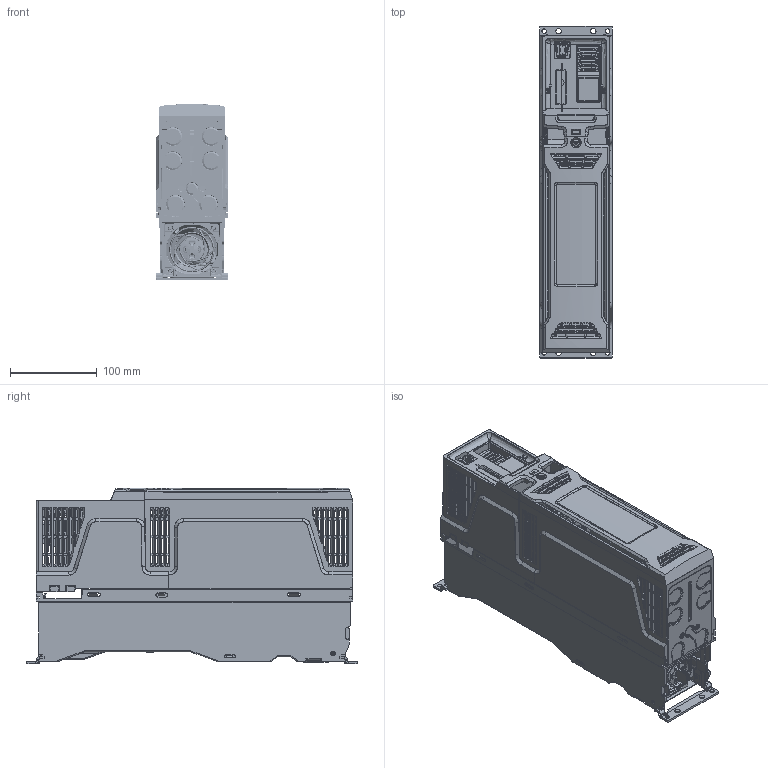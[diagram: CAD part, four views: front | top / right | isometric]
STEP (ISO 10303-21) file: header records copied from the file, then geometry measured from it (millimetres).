
FILE_DESCRIPTION((''),'2;1');
FILE_NAME('UNIM03_WITH_COVERS','2013-09-03T',('lewisi02'),(''),'PRO/ENGINEER BY PARAMETRIC TECHNOLOGY CORPORATION, 2011490','PRO/ENGINEER BY PARAMETRIC TECHNOLOGY CORPORATION, 2011490','');
FILE_SCHEMA(('CONFIG_CONTROL_DESIGN'));
Products named in the file (1): UNIM03_WITH_COVERS
Bounding box: 83.2 x 382 x 202.45 mm (x, y, z)
Surface area: 528145.5 mm2 (no closed solid volume)
Topology: 0 solids, 641 shells, 2579 faces, 18312 edges, 16142 vertices
Faces by surface type: plane 1240, cylinder 564, cone 289, bspline 283, torus 176, extrusion 22, sphere 5
Entity records: 204976 total; most frequent: CARTESIAN_POINT 84233, ORIENTED_EDGE 21070, DIRECTION 20196, EDGE_CURVE 18309, VERTEX_POINT 16142, VECTOR 10804, LINE 10782, B_SPLINE_CURVE_WITH_KNOTS 5127
